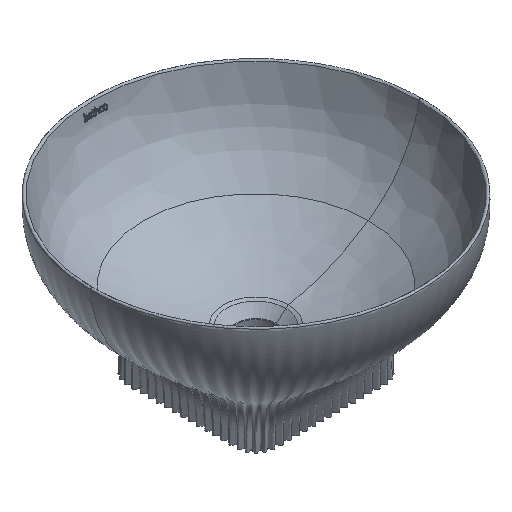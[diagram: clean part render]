
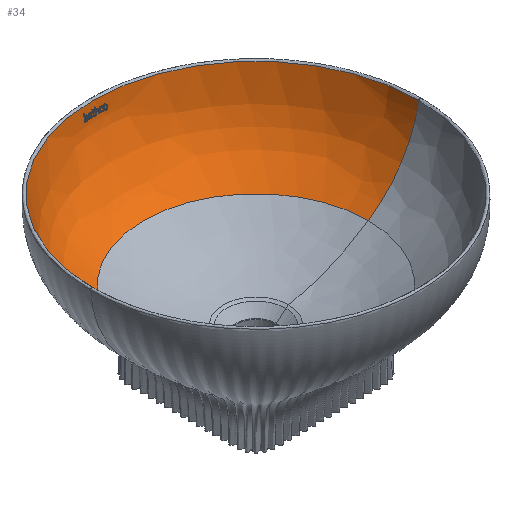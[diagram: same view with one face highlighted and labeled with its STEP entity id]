
A CAD part, isometric view. The second image highlights one B-rep face of the part: STEP entity #34.
In plain terms, the highlighted free-form (B-spline) face has degree [2, 2] with [5, 3] control points.
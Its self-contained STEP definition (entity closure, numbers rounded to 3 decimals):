
#34=ADVANCED_FACE('',(#160),#1980,.T.);
#160=FACE_OUTER_BOUND('',#286,.T.);
#286=EDGE_LOOP('',(#422,#423,#424,#425));
#422=ORIENTED_EDGE('',*,*,#1085,.T.);
#423=ORIENTED_EDGE('',*,*,#1083,.T.);
#424=ORIENTED_EDGE('',*,*,#1037,.F.);
#425=ORIENTED_EDGE('',*,*,#1036,.T.);
#1036=EDGE_CURVE('',#1702,#1728,#1602,.T.);
#1037=EDGE_CURVE('',#1702,#1701,#1554,.T.);
#1083=EDGE_CURVE('',#1727,#1701,#1618,.T.);
#1085=EDGE_CURVE('',#1728,#1727,#1576,.T.);
#1554=(
BOUNDED_CURVE()
B_SPLINE_CURVE(2,(#468311,#468312,#468313),.UNSPECIFIED.,.F.,.F.)
B_SPLINE_CURVE_WITH_KNOTS((3,3),(852.764,966.069),
 .UNSPECIFIED.)
CURVE()
GEOMETRIC_REPRESENTATION_ITEM()
RATIONAL_B_SPLINE_CURVE((1.,0.918,1.))
REPRESENTATION_ITEM('')
);
#1576=(
BOUNDED_CURVE()
B_SPLINE_CURVE(2,(#474072,#474073,#474074),.UNSPECIFIED.,.F.,.F.)
B_SPLINE_CURVE_WITH_KNOTS((3,3),(852.764,966.069),
 .UNSPECIFIED.)
CURVE()
GEOMETRIC_REPRESENTATION_ITEM()
RATIONAL_B_SPLINE_CURVE((1.,0.918,1.))
REPRESENTATION_ITEM('')
);
#1602=TRIMMED_CURVE($,#1652,(#468309),(#468310),.T.,.CARTESIAN.);
#1618=TRIMMED_CURVE($,#1668,(#474066),(#474067),.T.,.CARTESIAN.);
#1652=CIRCLE('',#2116,129.129);
#1668=CIRCLE('',#2132,187.019);
#1701=VERTEX_POINT('',#468258);
#1702=VERTEX_POINT('',#468259);
#1727=VERTEX_POINT('',#468284);
#1728=VERTEX_POINT('',#468285);
#1980=(
BOUNDED_SURFACE()
B_SPLINE_SURFACE(2,2,((#2372,#2373,#2374),(#2375,#2376,#2377),(#2378,#2379,
#2380),(#2381,#2382,#2383),(#2384,#2385,#2386)),.UNSPECIFIED.,.F.,.F.,.F.)
B_SPLINE_SURFACE_WITH_KNOTS((3,2,3),(3,3),(0.,293.768,587.537),
(852.764,966.069),.UNSPECIFIED.)
GEOMETRIC_REPRESENTATION_ITEM()
RATIONAL_B_SPLINE_SURFACE(((1.,0.918,1.),(0.707,
0.649,0.707),(1.,0.918,1.),(0.707,
0.649,0.707),(1.,0.918,1.)))
REPRESENTATION_ITEM('')
SURFACE()
);
#2116=AXIS2_PLACEMENT_3D($,#468308,#2212,#2213);
#2132=AXIS2_PLACEMENT_3D($,#474065,#2244,#2245);
#2212=DIRECTION('',(0.,0.,-1.));
#2213=DIRECTION('',(-1.,0.,0.));
#2244=DIRECTION('',(0.,0.,1.));
#2245=DIRECTION('',(1.,0.,0.));
#2372=CARTESIAN_POINT('',(16386.662,0.,-1922.485));
#2373=CARTESIAN_POINT('',(16338.015,0.,-1889.536));
#2374=CARTESIAN_POINT('',(16328.773,0.,-1831.589));
#2375=CARTESIAN_POINT('',(16386.662,129.129,-1922.485));
#2376=CARTESIAN_POINT('',(16338.015,177.776,-1889.536));
#2377=CARTESIAN_POINT('',(16328.773,187.019,-1831.589));
#2378=CARTESIAN_POINT('',(16515.791,129.129,-1922.485));
#2379=CARTESIAN_POINT('',(16515.791,177.776,-1889.536));
#2380=CARTESIAN_POINT('',(16515.791,187.019,-1831.589));
#2381=CARTESIAN_POINT('',(16644.92,129.129,-1922.485));
#2382=CARTESIAN_POINT('',(16693.567,177.776,-1889.536));
#2383=CARTESIAN_POINT('',(16702.81,187.019,-1831.589));
#2384=CARTESIAN_POINT('',(16644.92,0.,-1922.485));
#2385=CARTESIAN_POINT('',(16693.567,0.,-1889.536));
#2386=CARTESIAN_POINT('',(16702.81,0.,-1831.589));
#468258=CARTESIAN_POINT('',(16328.773,0.,-1831.589));
#468259=CARTESIAN_POINT('',(16386.662,0.,-1922.485));
#468284=CARTESIAN_POINT('',(16702.81,0.,-1831.589));
#468285=CARTESIAN_POINT('',(16644.92,0.,-1922.485));
#468308=CARTESIAN_POINT('',(16515.791,0.,-1922.485));
#468309=CARTESIAN_POINT('',(16386.662,0.,-1922.485));
#468310=CARTESIAN_POINT('',(16644.92,0.,-1922.485));
#468311=CARTESIAN_POINT('',(16386.662,0.,-1922.485));
#468312=CARTESIAN_POINT('',(16338.015,0.,-1889.536));
#468313=CARTESIAN_POINT('',(16328.773,0.,-1831.589));
#474065=CARTESIAN_POINT('',(16515.791,0.,-1831.589));
#474066=CARTESIAN_POINT('',(16702.81,0.,-1831.589));
#474067=CARTESIAN_POINT('',(16328.773,0.,-1831.589));
#474072=CARTESIAN_POINT('',(16644.92,0.,-1922.485));
#474073=CARTESIAN_POINT('',(16693.567,0.,-1889.536));
#474074=CARTESIAN_POINT('',(16702.81,0.,-1831.589));
